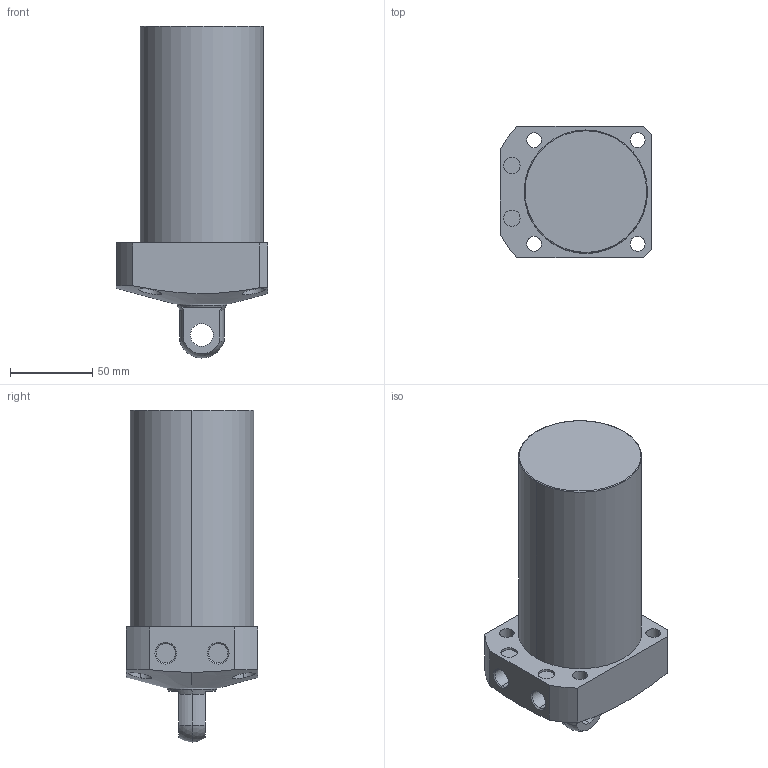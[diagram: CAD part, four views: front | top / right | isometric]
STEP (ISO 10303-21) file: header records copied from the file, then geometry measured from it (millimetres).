
FILE_DESCRIPTION (( 'STEP AP203' ), '1' );
FILE_NAME ('CLL-075CP-095.STEP', '2019-12-25T07:31:44', ( '' ), ( '' ), 'SwSTEP 2.0', 'SolidWorks 2015', '' );
FILE_SCHEMA (( 'CONFIG_CONTROL_DESIGN' ));
Length unit declared in the file: millimetre
Products named in the file (1): CLL-075CP-095
Bounding box: 92 x 80 x 202 mm (x, y, z)
Volume: 810600 mm3; surface area: 63005.4 mm2
Topology: 1 solids, 1 shells, 68 faces, 159 edges, 103 vertices
Faces by surface type: cylinder 35, plane 21, cone 8, sphere 2, torus 2
Entity records: 2459 total; most frequent: CARTESIAN_POINT 762, DIRECTION 357, ORIENTED_EDGE 318, EDGE_CURVE 159, AXIS2_PLACEMENT_3D 149, VERTEX_POINT 103, EDGE_LOOP 88, CIRCLE 80
